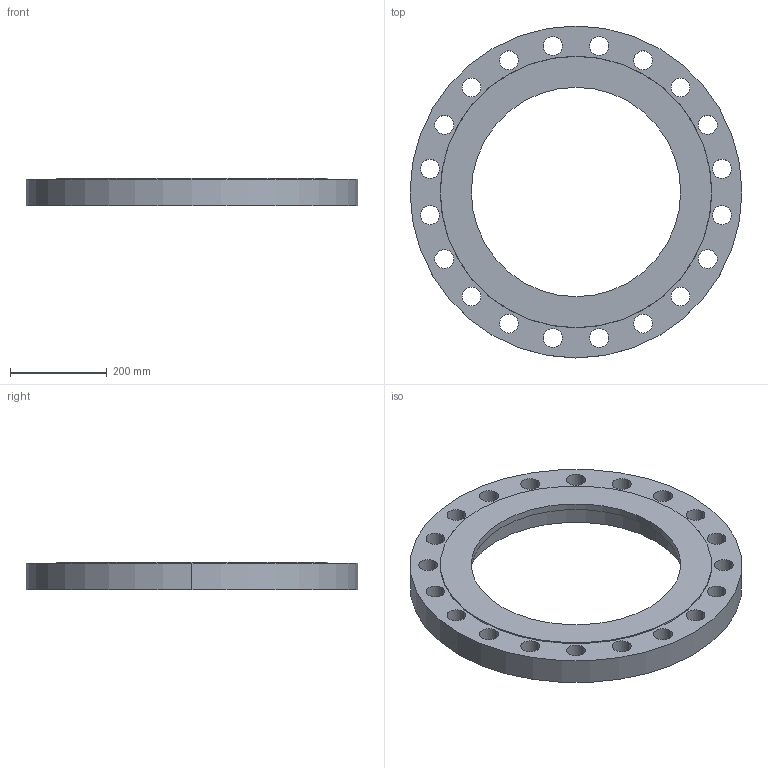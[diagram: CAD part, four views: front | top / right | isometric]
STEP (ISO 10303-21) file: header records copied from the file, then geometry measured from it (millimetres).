
FILE_DESCRIPTION (( 'STEP AP214' ), '1' );
FILE_NAME ('PN40 DN450 Type 05 - Socket (Type B) - Not in Standard.STEP', '2018-12-29T02:48:25', ( '' ), ( '' ), 'SwSTEP 2.0', 'SolidWorks 2019', '' );
FILE_SCHEMA (( 'AUTOMOTIVE_DESIGN' ));
Length unit declared in the file: millimetre
Products named in the file (1): PN40 DN450 Type 05 - Socket (Type B) - Not in Standard
Bounding box: 685 x 685 x 57 mm (x, y, z)
Volume: 10193009.1 mm3; surface area: 733600.8 mm2
Topology: 1 solids, 1 shells, 52 faces, 144 edges, 96 vertices
Faces by surface type: cylinder 46, plane 4, cone 2
Entity records: 1842 total; most frequent: DIRECTION 346, CARTESIAN_POINT 293, ORIENTED_EDGE 288, AXIS2_PLACEMENT_3D 149, EDGE_CURVE 144, EDGE_LOOP 96, VERTEX_POINT 96, CIRCLE 96
